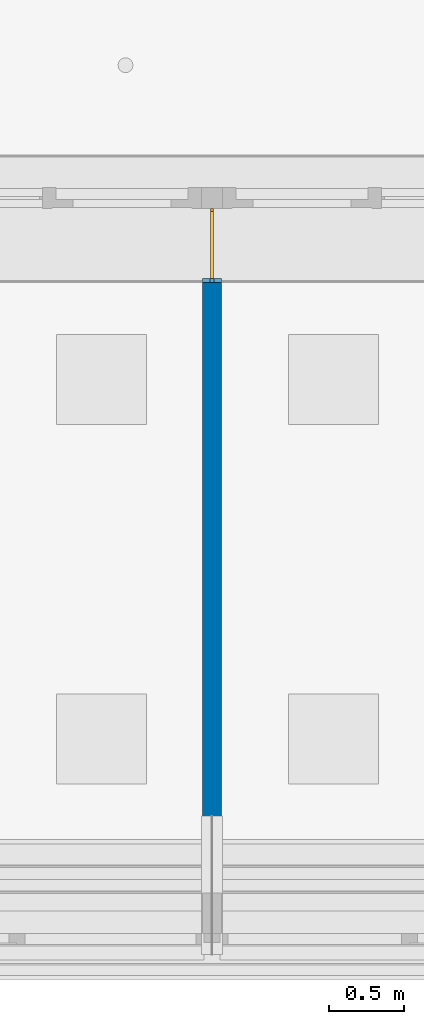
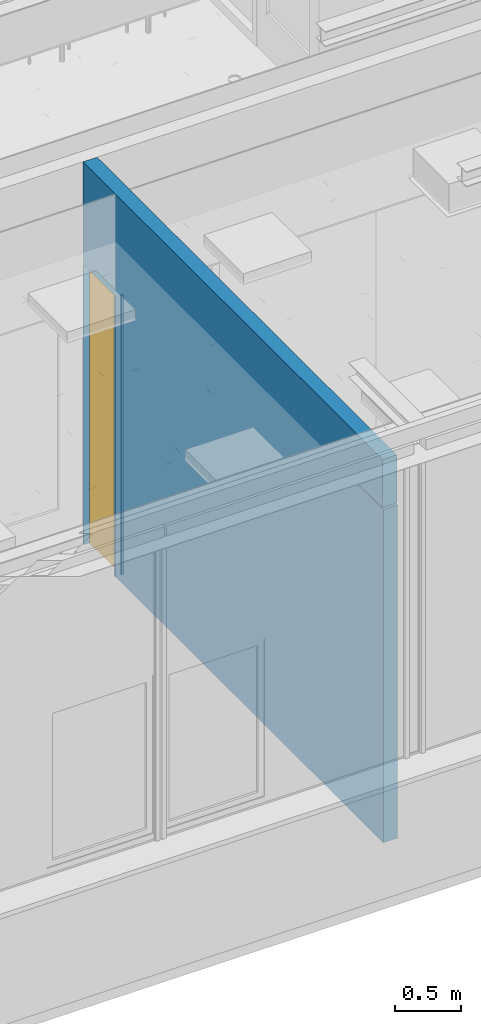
# One storey, part 29 of 260: 2 building element parts, 1 wall, 1 window, 2 openings, 1 element without a shape of its own.
"""IFC2X3 building model written with IfcOpenShell, lengths in millimetres."""

from ifc_helpers import new_model, entity, si_unit, converted_unit, derived_unit, money_unit, direction, frame, origin_with_axes, place, context, subcontext, project, spatial, open_shell, faceted_brep, surface_model, source, transform, mapped, material, type_object, element, fill, aggregate, save


model = new_model("IFC2X3")

# Units and contexts
model_context = context("Model", 3, precision=0.01, world=origin_with_axes(), true_north=direction((0.0, 1.0)))
plan_context = context("Plan", 3, precision=0.01, world=origin_with_axes(), true_north=direction((0.0, 1.0)))
body_context = subcontext(model_context, "Body", "Model", "MODEL_VIEW")
ifc_project = project(units=[si_unit("LENGTHUNIT", "METRE", prefix="MILLI"), si_unit("AREAUNIT", "SQUARE_METRE"), si_unit("VOLUMEUNIT", "CUBIC_METRE"), converted_unit("PLANEANGLEUNIT", "DEGREE", entity("IfcPlaneAngleMeasure", 0.0174532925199), si_unit("PLANEANGLEUNIT", "RADIAN"), dimensions=[0, 0, 0, 0, 0, 0, 0]), money_unit("EUR"), converted_unit("TIMEUNIT", "Year", entity("IfcTimeMeasure", 31556926.0), si_unit("TIMEUNIT", "SECOND"), dimensions=[0, 0, 1, 0, 0, 0, 0]), si_unit("MASSUNIT", "GRAM", prefix="KILO"), si_unit("THERMODYNAMICTEMPERATUREUNIT", "DEGREE_CELSIUS"), si_unit("LUMINOUSINTENSITYUNIT", "LUMEN"), si_unit("ENERGYUNIT", "JOULE", prefix="MEGA"), derived_unit("THERMALCONDUCTANCEUNIT", [(si_unit("POWERUNIT", "WATT"), 1), (si_unit("LENGTHUNIT", "METRE"), -1), (si_unit("THERMODYNAMICTEMPERATUREUNIT", "KELVIN"), -1)]), derived_unit("SPECIFICHEATCAPACITYUNIT", [(si_unit("ENERGYUNIT", "JOULE"), 1), (si_unit("MASSUNIT", "GRAM", prefix="KILO"), -1), (si_unit("THERMODYNAMICTEMPERATUREUNIT", "KELVIN"), -1)]), derived_unit("MASSDENSITYUNIT", [(si_unit("MASSUNIT", "GRAM", prefix="KILO"), 1), (si_unit("VOLUMEUNIT", "CUBIC_METRE"), -1)])], contexts=[model_context, plan_context])

# Site, building, storey
site_placement = place(None, origin_with_axes())
site = spatial("IfcSite", under=ifc_project, at=site_placement, Name="Site", CompositionType="ELEMENT")
building_placement = place(site_placement, origin_with_axes())
building = spatial("IfcBuilding", under=site, at=building_placement, Name="Naam gebouw", CompositionType="ELEMENT")
storey_placement = place(building_placement, frame((0.0, 0.0, 3960.0), z_axis=(0.0, 0.0, 1.0), x_axis=(1.0, 0.0, 0.0)))
storey = spatial("IfcBuildingStorey", under=building, at=storey_placement, Name="verdieping", CompositionType="ELEMENT", Elevation=3960.0)

# Wall, openings, windows, building element parts
ifc_material_1 = material(Name="ALG - LICHTE SCHEIDINGSWAND")
wall_type = type_object("IfcWallType", Name="ALG LSW 125 125", PredefinedType="NOTDEFINED")
wall_placement = place(storey_placement, frame((40082.5, 9825.0, 0.0), z_axis=(0.0, 0.0, 1.0), x_axis=(0.0, -1.0, 0.0)))
wall = element("IfcWall", 1, at=wall_placement, inside=storey, type_object=wall_type, material=ifc_material_1, Name="22_GF 125 ECO DGS/2.75.2A", context=body_context, shape_type="Brep", body=[
    faceted_brep([(132.0, -62.5, 2600.0), (132.0, 62.5, 2600.0), (125.0, 62.5, 2600.0), (125.0, -62.5, 2600.0), (132.0, -62.5, 0.0), (132.0, 62.5, 0.0), (125.0, 62.5, 0.0), (125.0, -62.5, 0.0)], [[[0, 1, 2, 3]], [[4, 5, 1, 0]], [[2, 1, 5, 6]], [[3, 2, 6, 7]], [[4, 0, 3, 7]], [[6, 5, 4, 7]]]),
    faceted_brep([(4705.0, 62.5, 0.0), (625.0, 62.5, 0.0), (625.0, 62.5, 2600.0), (625.0, 62.5, 2612.0), (125.0, 62.5, 2612.0), (125.0, 62.5, 3560.0), (4693.0, 62.5, 3560.0), (4693.0, 62.5, 3112.0), (4345.0, 62.5, 3112.0), (4345.0, 62.5, 3100.0), (4705.0, 62.5, 3100.0), (625.0, -62.5, 0.0), (4705.0, -62.5, 0.0), (625.0, -62.5, 2600.0), (625.0, -62.5, 2612.0), (125.0, -62.5, 2612.0), (125.0, -62.5, 3560.0), (4693.0, -62.5, 3560.0), (4693.0, -62.5, 3112.0), (4345.0, -62.5, 3112.0), (4345.0, -62.5, 3100.0), (4705.0, -62.5, 3100.0)], [[[0, 1, 2, 3, 4, 5, 6, 7, 8, 9, 10]], [[11, 1, 0, 12]], [[13, 2, 1, 11]], [[3, 2, 13, 14]], [[15, 4, 3, 14]], [[4, 15, 16, 5]], [[16, 17, 6, 5]], [[18, 7, 6, 17]], [[8, 7, 18, 19]], [[9, 8, 19, 20]], [[9, 20, 21, 10]], [[0, 10, 21, 12]], [[17, 16, 15, 14, 13, 11, 12, 21, 20, 19, 18]]]),
])
opening_1_placement = place(wall_placement, frame((378.5, 0.0, 0.0), z_axis=(0.0, 0.0, 1.0), x_axis=(1.0, 0.0, 0.0)))
opening_1 = element("IfcOpeningElement", 2, at=opening_1_placement, cuts=wall, Name="31_10.03", context=body_context, shape_type="Brep", body=[
    faceted_brep([(-246.5, 187.5, 2600.0), (-246.5, 187.5, 0.0), (-246.5, -10.0, 0.0), (-246.5, -10.0, 2600.0), (246.5, 187.5, 2600.0), (246.5, 187.5, 0.0), (246.5, -10.0, 0.0), (246.5, -10.0, 2600.0)], [[[0, 1, 2, 3]], [[0, 4, 5, 1]], [[1, 5, 6, 2]], [[3, 2, 6, 7]], [[4, 0, 3, 7]], [[5, 4, 7, 6]]]),
    faceted_brep([(-246.5, -187.5, 0.0), (-246.5, -187.5, 2600.0), (-246.5, -10.0, 2600.0), (-246.5, -10.0, 0.0), (246.5, -187.5, 0.0), (246.5, -187.5, 2600.0), (246.5, -10.0, 2600.0), (246.5, -10.0, 0.0)], [[[0, 1, 2, 3]], [[0, 4, 5, 1]], [[1, 5, 6, 2]], [[3, 2, 6, 7]], [[4, 0, 3, 7]], [[5, 4, 7, 6]]]),
])
opening_2_placement = place(wall_placement, frame((612.5, 0.0, 0.0), z_axis=(0.0, 0.0, 1.0), x_axis=(1.0, 0.0, 0.0)))
opening_2 = element("IfcOpeningElement", 3, at=opening_2_placement, cuts=wall, Name="31_-", context=body_context, shape_type="Brep", body=[
    faceted_brep([(12.5, 187.5, 0.0), (12.5, 187.5, 2600.0), (12.5, 12.5, 2600.0), (12.5, 12.5, 0.0), (-12.5, 187.5, 0.0), (-12.5, 187.5, 2600.0), (-12.5, 12.5, 2600.0), (-12.5, 12.5, 0.0)], [[[0, 1, 2, 3]], [[0, 4, 5, 1]], [[1, 5, 6, 2]], [[3, 2, 6, 7]], [[4, 0, 3, 7]], [[5, 4, 7, 6]]]),
    faceted_brep([(12.5, -162.5, 2600.0), (12.5, -162.5, 0.0), (12.5, 12.5, 0.0), (12.5, 12.5, 2600.0), (-12.5, -162.5, 2600.0), (-12.5, -162.5, 0.0), (-12.5, 12.5, 0.0), (-12.5, 12.5, 2600.0)], [[[0, 1, 2, 3]], [[0, 4, 5, 1]], [[1, 5, 6, 2]], [[3, 2, 6, 7]], [[4, 0, 3, 7]], [[5, 4, 7, 6]]]),
])
window_style_1 = type_object("IfcWindowStyle", Name="R1 25", ConstructionType="NOTDEFINED", OperationType="SINGLE_PANEL", ParameterTakesPrecedence=False, Sizeable=False)
window_1_placement = place(opening_1_placement, frame((246.5, 0.0, 0.0), z_axis=(0.0, 0.0, 1.0), x_axis=(-1.0, 0.0, 0.0)))
window_1 = element("IfcWindow", 4, at=window_1_placement, inside=storey, type_object=window_style_1, Name="31_10.03", ObjectType="WINDOW", OverallHeight=2600.0, OverallWidth=493.0, context=body_context, shape_type="SurfaceModel", body=[
    faceted_brep([(20.0, -10.0, 2580.0), (20.0, 10.0, 2580.0), (0.0, 10.0, 2580.0), (0.0, -10.0, 2580.0), (20.0, -10.0, 20.0), (20.0, 10.0, 20.0), (0.0, 10.0, 20.0), (0.0, -10.0, 20.0)], [[[0, 1, 2, 3]], [[4, 5, 1, 0]], [[1, 5, 6, 2]], [[3, 2, 6, 7]], [[0, 3, 7, 4]], [[7, 6, 5, 4]]]),
    faceted_brep([(473.0, -10.0, 20.0), (473.0, 10.0, 20.0), (493.0, 10.0, 20.0), (493.0, -10.0, 20.0), (473.0, -10.0, 2580.0), (473.0, 10.0, 2580.0), (493.0, 10.0, 2580.0), (493.0, -10.0, 2580.0)], [[[0, 1, 2, 3]], [[4, 5, 1, 0]], [[1, 5, 6, 2]], [[3, 2, 6, 7]], [[0, 3, 7, 4]], [[7, 6, 5, 4]]]),
    faceted_brep([(20.0, -10.0, 20.0), (20.0, 10.0, 20.0), (0.0, 10.0, 20.0), (0.0, -10.0, 20.0), (473.0, -10.0, 20.0), (473.0, 10.0, 20.0), (493.0, 10.0, 20.0), (493.0, 10.0, 0.0), (0.0, 10.0, 0.0), (0.0, -10.0, 0.0), (493.0, -10.0, 0.0), (493.0, -10.0, 20.0)], [[[0, 1, 2, 3]], [[4, 5, 1, 0]], [[1, 5, 6, 7, 8, 2]], [[3, 2, 8, 9]], [[0, 3, 9, 10, 11, 4]], [[11, 6, 5, 4]], [[10, 7, 6, 11]], [[9, 8, 7, 10]]]),
    faceted_brep([(473.0, -10.0, 2580.0), (473.0, 10.0, 2580.0), (493.0, 10.0, 2580.0), (493.0, -10.0, 2580.0), (20.0, -10.0, 2580.0), (20.0, 10.0, 2580.0), (0.0, 10.0, 2580.0), (0.0, 10.0, 2600.0), (493.0, 10.0, 2600.0), (493.0, -10.0, 2600.0), (0.0, -10.0, 2600.0), (0.0, -10.0, 2580.0)], [[[0, 1, 2, 3]], [[4, 5, 1, 0]], [[1, 5, 6, 7, 8, 2]], [[3, 2, 8, 9]], [[0, 3, 9, 10, 11, 4]], [[11, 6, 5, 4]], [[10, 7, 6, 11]], [[9, 8, 7, 10]]]),
    surface_model("IfcShellBasedSurfaceModel", [(20.0, -10.0, 20.0), (473.0, -10.0, 20.0), (473.0, -10.0, 2580.0), (20.0, -10.0, 2580.0)], [open_shell([[[0, 1, 2, 3]]])]),
    surface_model("IfcShellBasedSurfaceModel", [(20.0, 10.0, 20.0), (20.0, 10.0, 2580.0), (473.0, 10.0, 2580.0), (473.0, 10.0, 20.0)], [open_shell([[[0, 1, 2, 3]]])]),
])
fill(opening_1, window_1)
window_style_2 = type_object("IfcWindowStyle", Name="32 glaslatten 125mm wand", ConstructionType="NOTDEFINED", OperationType="NOTDEFINED", ParameterTakesPrecedence=False, Sizeable=False)
window_2_placement = place(opening_2_placement, frame((-12.5, 0.0, 0.0), z_axis=(0.0, 0.0, 1.0), x_axis=(1.0, 0.0, 0.0)))
window_2 = element("IfcWindow", 5, at=window_2_placement, inside=storey, type_object=window_style_2, Name="31_-", ObjectType="WINDOW", OverallHeight=2600.0, OverallWidth=25.0)
fill(opening_2, window_2)
ifc_material_2 = material(Name="32 Hout binnenkozijn")
shared_shape_1 = source(origin_with_axes(), body_context, "Body", "Brep", [
    faceted_brep([(-12.5, -77.0, 2600.0), (-12.5, -77.0, 0.0), (12.5, -77.0, 0.0), (12.5, -77.0, 2600.0), (-12.5, -25.0, 2600.0), (-12.5, -25.0, 0.0), (12.5, -25.0, 0.0), (12.5, -25.0, 2600.0)], [[[0, 1, 2, 3]], [[4, 5, 1, 0]], [[1, 5, 6, 2]], [[3, 2, 6, 7]], [[0, 3, 7, 4]], [[7, 6, 5, 4]]]),
    faceted_brep([(-12.5, 0.0, 2600.0), (-12.5, 0.0, 0.0), (12.5, 0.0, 0.0), (12.5, 0.0, 2600.0), (-12.5, 52.0, 2600.0), (-12.5, 52.0, 0.0), (12.5, 52.0, 0.0), (12.5, 52.0, 2600.0)], [[[0, 1, 2, 3]], [[4, 5, 1, 0]], [[1, 5, 6, 2]], [[3, 2, 6, 7]], [[0, 3, 7, 4]], [[7, 6, 5, 4]]]),
])
building_element_part_1_placement = place(window_2_placement, origin_with_axes())
building_element_part_1 = element("IfcBuildingElementPart", 6, at=building_element_part_1_placement, material=ifc_material_2, Name="32 Hout binnenkozijn", context=body_context, shape_type="MappedRepresentation", body=[
    mapped(shared_shape_1, transform((12.5, 12.5, 0.0))),
])
ifc_material_3 = material(Name="Membraan - rubber")
shared_shape_2 = source(origin_with_axes(), body_context, "Body", "Brep", [
    faceted_brep([(-12.5, -25.0, 2600.0), (-12.5, -25.0, 0.0), (12.5, -25.0, 0.0), (12.5, -25.0, 2600.0), (-12.5, 0.0, 2600.0), (-12.5, 0.0, 0.0), (12.5, 0.0, 0.0), (12.5, 0.0, 2600.0)], [[[0, 1, 2, 3]], [[4, 5, 1, 0]], [[1, 5, 6, 2]], [[3, 2, 6, 7]], [[0, 3, 7, 4]], [[7, 6, 5, 4]]]),
])
building_element_part_2_placement = place(window_2_placement, origin_with_axes())
building_element_part_2 = element("IfcBuildingElementPart", 7, at=building_element_part_2_placement, material=ifc_material_3, Name="Membraan - rubber", context=body_context, shape_type="MappedRepresentation", body=[
    mapped(shared_shape_2, transform((12.5, 12.5, 0.0))),
])
aggregate(window_2, [building_element_part_1, building_element_part_2])

save(model, "model.ifc")
